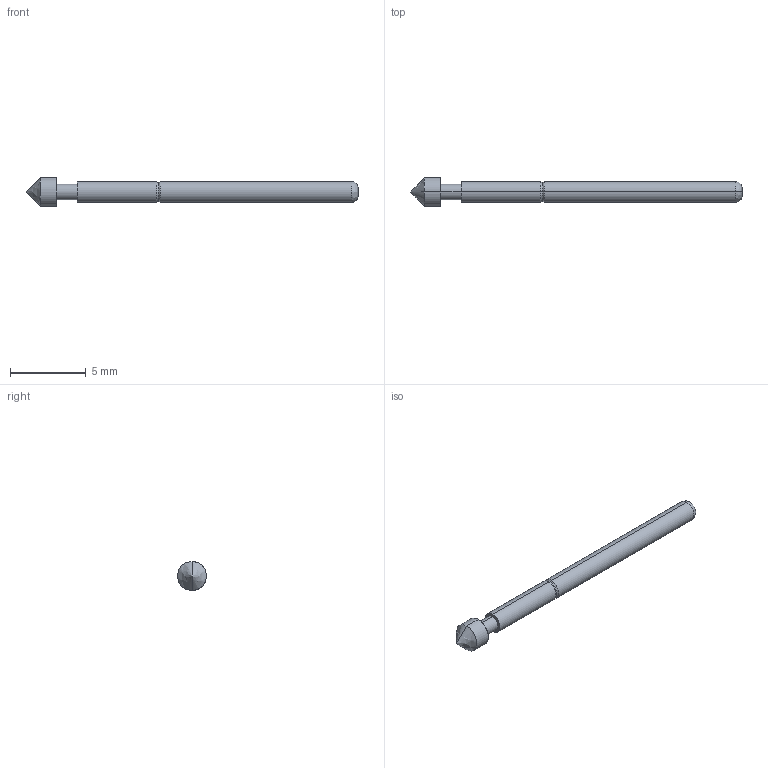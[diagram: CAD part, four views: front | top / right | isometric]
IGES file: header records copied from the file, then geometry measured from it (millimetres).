
Start section: SolidWorks IGES file using analytic representation for surfaces
Global section: file name: Z:\probe solid model mockups\Solidworks models\IGES Files\EPA-2\EPA-2E RECD.IGS; native system: SolidWorks 2006 by SolidWorks Corporation; preprocessor: SolidWorks 2006 by SolidWorks Corporation; author: tsakatani; date: 071220.161749; units: inch
Bounding box: 21.92 x 1.91 x 1.91 mm (x, y, z)
Surface area: 98.1 mm2 (no closed solid volume)
Topology: 0 solids, 0 shells, 19 faces, 160 edges, 158 vertices
Faces by surface type: revolution 10, bspline 9
